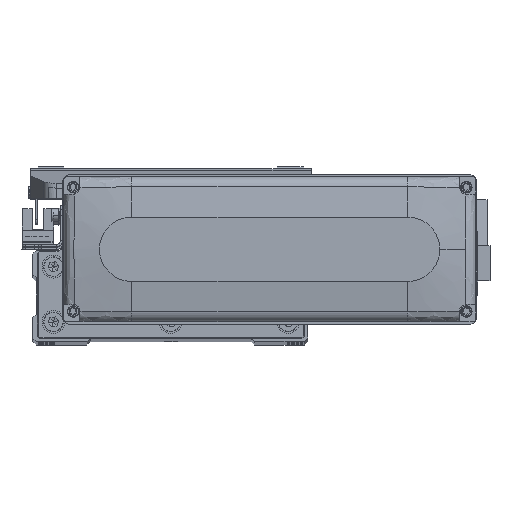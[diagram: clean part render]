
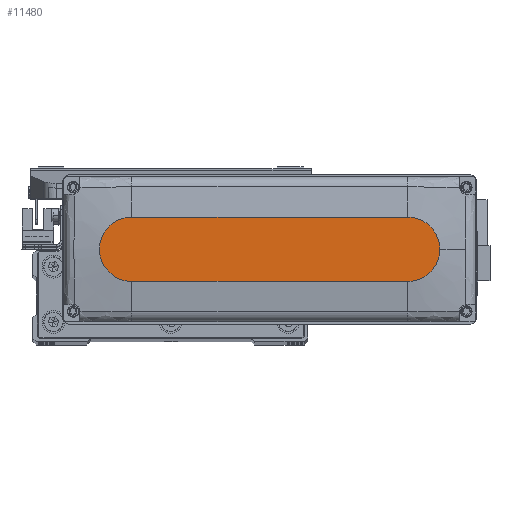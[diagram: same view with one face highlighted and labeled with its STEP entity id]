
A CAD part, top view. The second image highlights one B-rep face of the part: STEP entity #11480.
In plain terms, the highlighted planar face has unit normal (0, 0, 1).
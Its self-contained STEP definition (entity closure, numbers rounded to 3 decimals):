
#1363 = ORIENTED_EDGE ( 'NONE', *, *, #3949, .T. ) ;
#2254 = EDGE_CURVE ( 'NONE', #35285, #20018, #3752, .T. ) ;
#3067 = CARTESIAN_POINT ( 'NONE',  ( 74., 0., 28.5 ) ) ;
#3284 = ORIENTED_EDGE ( 'NONE', *, *, #40966, .T. ) ;
#3752 = CIRCLE ( 'NONE', #27125, 14. ) ;
#3949 = EDGE_CURVE ( 'NONE', #18303, #35285, #13419, .T. ) ;
#5187 = LINE ( 'NONE', #50961, #30281 ) ;
#9538 = EDGE_CURVE ( 'NONE', #39943, #26935, #5187, .T. ) ;
#10300 = PLANE ( 'NONE',  #30731 ) ;
#10708 = DIRECTION ( 'NONE',  ( 1., 0., 0. ) ) ;
#11480 = ADVANCED_FACE ( 'NONE', ( #27077 ), #10300, .T. ) ;
#12508 = CARTESIAN_POINT ( 'NONE',  ( 60., -14., 28.5 ) ) ;
#13419 = LINE ( 'NONE', #17749, #18284 ) ;
#13688 = DIRECTION ( 'NONE',  ( 0., 0., 1. ) ) ;
#14747 = CARTESIAN_POINT ( 'NONE',  ( -60., 0., 28.5 ) ) ;
#15921 = DIRECTION ( 'NONE',  ( 1., 0., 0. ) ) ;
#16147 = AXIS2_PLACEMENT_3D ( 'NONE', #14747, #47780, #10708 ) ;
#17749 = CARTESIAN_POINT ( 'NONE',  ( -60., -14., 28.5 ) ) ;
#18284 = VECTOR ( 'NONE', #22380, 1000. ) ;
#18303 = VERTEX_POINT ( 'NONE', #38578 ) ;
#18378 = DIRECTION ( 'NONE',  ( 0., 0., 1. ) ) ;
#18688 = AXIS2_PLACEMENT_3D ( 'NONE', #36777, #35333, #15921 ) ;
#20018 = VERTEX_POINT ( 'NONE', #3067 ) ;
#21457 = DIRECTION ( 'NONE',  ( -1., 0., 0. ) ) ;
#22380 = DIRECTION ( 'NONE',  ( 1., 0., 0. ) ) ;
#25063 = EDGE_CURVE ( 'NONE', #26935, #18303, #39491, .T. ) ;
#26350 = CARTESIAN_POINT ( 'NONE',  ( 60., 14., 28.5 ) ) ;
#26423 = ORIENTED_EDGE ( 'NONE', *, *, #25063, .T. ) ;
#26546 = CARTESIAN_POINT ( 'NONE',  ( 0., 0., 28.5 ) ) ;
#26935 = VERTEX_POINT ( 'NONE', #37959 ) ;
#27077 = FACE_OUTER_BOUND ( 'NONE', #33926, .T. ) ;
#27125 = AXIS2_PLACEMENT_3D ( 'NONE', #51055, #13688, #49980 ) ;
#29388 = ORIENTED_EDGE ( 'NONE', *, *, #2254, .T. ) ;
#30281 = VECTOR ( 'NONE', #21457, 1000. ) ;
#30731 = AXIS2_PLACEMENT_3D ( 'NONE', #26546, #18378, #34903 ) ;
#33926 = EDGE_LOOP ( 'NONE', ( #37992, #26423, #1363, #29388, #3284 ) ) ;
#34903 = DIRECTION ( 'NONE',  ( 1., 0., 0. ) ) ;
#35285 = VERTEX_POINT ( 'NONE', #12508 ) ;
#35333 = DIRECTION ( 'NONE',  ( 0., 0., 1. ) ) ;
#36777 = CARTESIAN_POINT ( 'NONE',  ( 60., 0., 28.5 ) ) ;
#37959 = CARTESIAN_POINT ( 'NONE',  ( -60., 14., 28.5 ) ) ;
#37992 = ORIENTED_EDGE ( 'NONE', *, *, #9538, .T. ) ;
#38578 = CARTESIAN_POINT ( 'NONE',  ( -60., -14., 28.5 ) ) ;
#39491 = CIRCLE ( 'NONE', #16147, 14. ) ;
#39943 = VERTEX_POINT ( 'NONE', #26350 ) ;
#40296 = CIRCLE ( 'NONE', #18688, 14. ) ;
#40966 = EDGE_CURVE ( 'NONE', #20018, #39943, #40296, .T. ) ;
#47780 = DIRECTION ( 'NONE',  ( 0., 0., 1. ) ) ;
#49980 = DIRECTION ( 'NONE',  ( 1., 0., 0. ) ) ;
#50961 = CARTESIAN_POINT ( 'NONE',  ( -60., 14., 28.5 ) ) ;
#51055 = CARTESIAN_POINT ( 'NONE',  ( 60., 0., 28.5 ) ) ;
